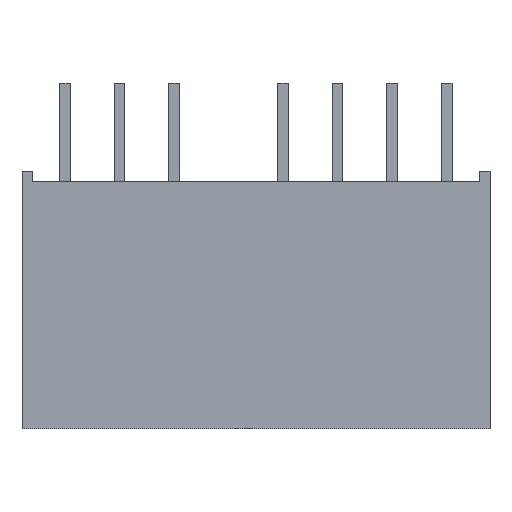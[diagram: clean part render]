
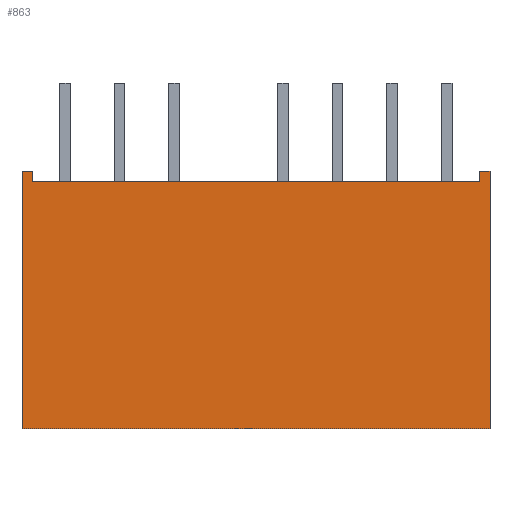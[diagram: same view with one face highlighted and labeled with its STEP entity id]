
A CAD part, front view. The second image highlights one B-rep face of the part: STEP entity #863.
In plain terms, the highlighted planar face has unit normal (0, -1, 0).
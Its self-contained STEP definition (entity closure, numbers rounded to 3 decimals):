
#63=FACE_OUTER_BOUND('',#115,.T.);
#115=EDGE_LOOP('',(#714,#715,#716,#717,#718,#719,#720,#721));
#203=LINE('',#1294,#311);
#208=LINE('',#1303,#316);
#209=LINE('',#1306,#317);
#215=LINE('',#1318,#323);
#220=LINE('',#1327,#328);
#222=LINE('',#1331,#330);
#223=LINE('',#1334,#331);
#224=LINE('',#1335,#332);
#311=VECTOR('',#1072,0.5);
#316=VECTOR('',#1079,20.8);
#317=VECTOR('',#1082,0.5);
#323=VECTOR('',#1090,0.5);
#328=VECTOR('',#1099,0.5);
#330=VECTOR('',#1103,12.);
#331=VECTOR('',#1106,21.8);
#332=VECTOR('',#1107,12.);
#391=VERTEX_POINT('',#1291);
#392=VERTEX_POINT('',#1293);
#395=VERTEX_POINT('',#1301);
#396=VERTEX_POINT('',#1305);
#398=VERTEX_POINT('',#1311);
#401=VERTEX_POINT('',#1316);
#404=VERTEX_POINT('',#1329);
#405=VERTEX_POINT('',#1333);
#491=EDGE_CURVE('',#392,#391,#203,.T.);
#496=EDGE_CURVE('',#391,#395,#208,.T.);
#497=EDGE_CURVE('',#396,#392,#209,.T.);
#503=EDGE_CURVE('',#398,#401,#215,.T.);
#508=EDGE_CURVE('',#395,#398,#220,.T.);
#510=EDGE_CURVE('',#401,#404,#222,.T.);
#511=EDGE_CURVE('',#405,#404,#223,.T.);
#512=EDGE_CURVE('',#396,#405,#224,.T.);
#714=ORIENTED_EDGE('',*,*,#508,.T.);
#715=ORIENTED_EDGE('',*,*,#503,.T.);
#716=ORIENTED_EDGE('',*,*,#510,.T.);
#717=ORIENTED_EDGE('',*,*,#511,.F.);
#718=ORIENTED_EDGE('',*,*,#512,.F.);
#719=ORIENTED_EDGE('',*,*,#497,.T.);
#720=ORIENTED_EDGE('',*,*,#491,.T.);
#721=ORIENTED_EDGE('',*,*,#496,.T.);
#772=PLANE('',#910);
#863=ADVANCED_FACE('',(#63),#772,.T.);
#910=AXIS2_PLACEMENT_3D('',#1332,#1104,#1105);
#1072=DIRECTION('',(0.,0.,-1.));
#1079=DIRECTION('',(-1.,0.,0.));
#1082=DIRECTION('',(-1.,0.,0.));
#1090=DIRECTION('',(-1.,0.,0.));
#1099=DIRECTION('',(0.,0.,1.));
#1103=DIRECTION('',(0.,0.,-1.));
#1104=DIRECTION('center_axis',(0.,-1.,0.));
#1105=DIRECTION('ref_axis',(-1.,0.,0.));
#1106=DIRECTION('',(-1.,0.,0.));
#1107=DIRECTION('',(0.,0.,-1.));
#1291=CARTESIAN_POINT('',(10.4,-4.8,-0.5));
#1293=CARTESIAN_POINT('',(10.4,-4.8,0.));
#1294=CARTESIAN_POINT('',(10.4,-4.8,0.));
#1301=CARTESIAN_POINT('',(-10.4,-4.8,-0.5));
#1303=CARTESIAN_POINT('',(5.45,-4.8,-0.5));
#1305=CARTESIAN_POINT('',(10.9,-4.8,0.));
#1306=CARTESIAN_POINT('',(10.9,-4.8,0.));
#1311=CARTESIAN_POINT('',(-10.4,-4.8,0.));
#1316=CARTESIAN_POINT('',(-10.9,-4.8,0.));
#1318=CARTESIAN_POINT('',(10.9,-4.8,0.));
#1327=CARTESIAN_POINT('',(-10.4,-4.8,0.));
#1329=CARTESIAN_POINT('',(-10.9,-4.8,-12.));
#1331=CARTESIAN_POINT('',(-10.9,-4.8,0.));
#1332=CARTESIAN_POINT('Origin',(10.9,-4.8,0.));
#1333=CARTESIAN_POINT('',(10.9,-4.8,-12.));
#1334=CARTESIAN_POINT('',(10.9,-4.8,-12.));
#1335=CARTESIAN_POINT('',(10.9,-4.8,0.));
